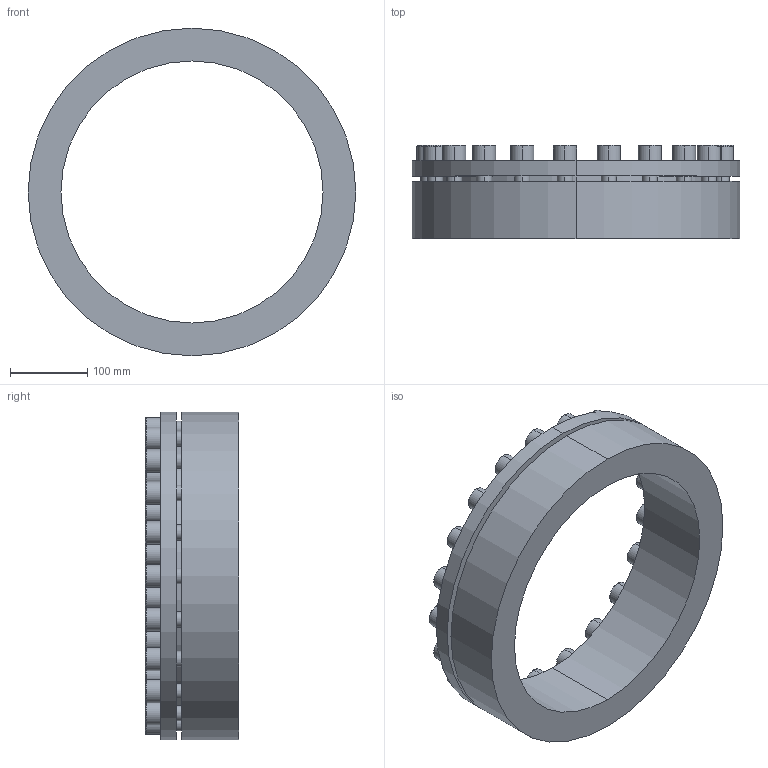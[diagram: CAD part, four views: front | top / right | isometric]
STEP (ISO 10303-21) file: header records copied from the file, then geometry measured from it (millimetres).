
FILE_DESCRIPTION (( 'STEP AP203' ), '1' );
FILE_NAME ('PL-H3 340-425.STEP', '2021-10-23T01:12:45', ( '' ), ( '' ), 'SwSTEP 2.0', 'SolidWorks 2018', '' );
FILE_SCHEMA (( 'CONFIG_CONTROL_DESIGN' ));
Length unit declared in the file: millimetre
Products named in the file (1): PL-H3 340-425
Bounding box: 425 x 121 x 425 mm (x, y, z)
Volume: 5155856.2 mm3; surface area: 474043.1 mm2
Topology: 1 solids, 1 shells, 306 faces, 738 edges, 478 vertices
Faces by surface type: plane 172, cylinder 92, torus 42
Entity records: 9099 total; most frequent: DIRECTION 1620, CARTESIAN_POINT 1523, ORIENTED_EDGE 1476, EDGE_CURVE 738, AXIS2_PLACEMENT_3D 575, VERTEX_POINT 478, LINE 470, VECTOR 470
